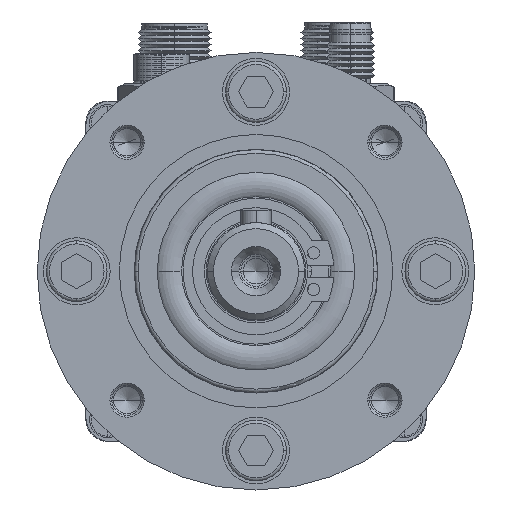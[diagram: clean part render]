
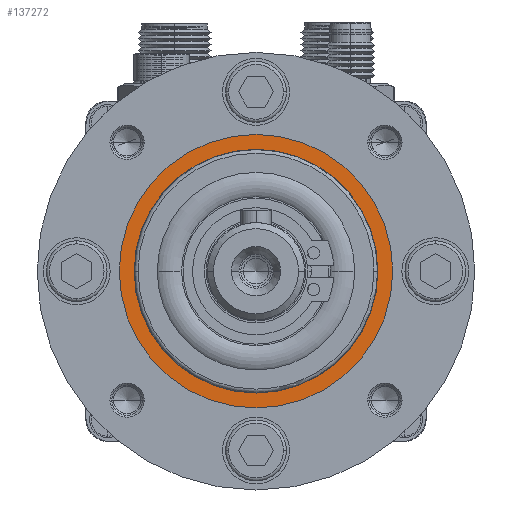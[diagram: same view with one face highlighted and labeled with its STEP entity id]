
A CAD part, left-side view. The second image highlights one B-rep face of the part: STEP entity #137272.
In plain terms, the highlighted planar face has unit normal (-1, 0, 0) as drawn and (1, 0, 0) by its records, which use the part's own axes.
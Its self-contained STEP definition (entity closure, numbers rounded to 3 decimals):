
#9642 = AXIS2_PLACEMENT_3D ( 'NONE', #59638, #80483, #103669 ) ;
#11394 = VERTEX_POINT ( 'NONE', #104766 ) ;
#12168 = CARTESIAN_POINT ( 'NONE',  ( 38.6, 0., 0. ) ) ;
#13734 = CARTESIAN_POINT ( 'NONE',  ( 38.6, 0., 0. ) ) ;
#18570 = DIRECTION ( 'NONE',  ( 0., 0., -1. ) ) ;
#19037 = DIRECTION ( 'NONE',  ( -1., 0., 0. ) ) ;
#24429 = DIRECTION ( 'NONE',  ( -1., 0., 0. ) ) ;
#36317 = VERTEX_POINT ( 'NONE', #94922 ) ;
#43731 = EDGE_CURVE ( 'NONE', #131314, #136624, #92022, .T. ) ;
#45557 = PLANE ( 'NONE',  #115530 ) ;
#48320 = DIRECTION ( 'NONE',  ( 1., 0., 0. ) ) ;
#57386 = DIRECTION ( 'NONE',  ( 0., 0., -1. ) ) ;
#59638 = CARTESIAN_POINT ( 'NONE',  ( 38.6, 0., 0. ) ) ;
#61723 = ORIENTED_EDGE ( 'NONE', *, *, #43731, .F. ) ;
#65879 = EDGE_LOOP ( 'NONE', ( #136371, #100129 ) ) ;
#68862 = EDGE_CURVE ( 'NONE', #11394, #36317, #128549, .T. ) ;
#69534 = EDGE_CURVE ( 'NONE', #36317, #11394, #120976, .T. ) ;
#80483 = DIRECTION ( 'NONE',  ( -1., 0., 0. ) ) ;
#82325 = EDGE_CURVE ( 'NONE', #136624, #131314, #114845, .T. ) ;
#86234 = FACE_OUTER_BOUND ( 'NONE', #126947, .T. ) ;
#88790 = AXIS2_PLACEMENT_3D ( 'NONE', #12168, #127338, #95781 ) ;
#89633 = FACE_BOUND ( 'NONE', #65879, .T. ) ;
#92022 = CIRCLE ( 'NONE', #109648, 22.5 ) ;
#92854 = CARTESIAN_POINT ( 'NONE',  ( 38.6, 0., 0. ) ) ;
#94922 = CARTESIAN_POINT ( 'NONE',  ( 38.6, 0., -20.05 ) ) ;
#95781 = DIRECTION ( 'NONE',  ( 0., 0., 1. ) ) ;
#100129 = ORIENTED_EDGE ( 'NONE', *, *, #69534, .T. ) ;
#100625 = ORIENTED_EDGE ( 'NONE', *, *, #82325, .F. ) ;
#101200 = CARTESIAN_POINT ( 'NONE',  ( 38.6, 0., 0. ) ) ;
#101699 = AXIS2_PLACEMENT_3D ( 'NONE', #92854, #19037, #18570 ) ;
#103669 = DIRECTION ( 'NONE',  ( 0., 0., 1. ) ) ;
#104766 = CARTESIAN_POINT ( 'NONE',  ( 38.6, 0., 20.05 ) ) ;
#109648 = AXIS2_PLACEMENT_3D ( 'NONE', #13734, #24429, #57386 ) ;
#114845 = CIRCLE ( 'NONE', #101699, 22.5 ) ;
#115530 = AXIS2_PLACEMENT_3D ( 'NONE', #101200, #48320, #133131 ) ;
#120976 = CIRCLE ( 'NONE', #9642, 20.05 ) ;
#126588 = CARTESIAN_POINT ( 'NONE',  ( 38.6, 0., 22.5 ) ) ;
#126947 = EDGE_LOOP ( 'NONE', ( #100625, #61723 ) ) ;
#127338 = DIRECTION ( 'NONE',  ( -1., 0., 0. ) ) ;
#128549 = CIRCLE ( 'NONE', #88790, 20.05 ) ;
#130139 = CARTESIAN_POINT ( 'NONE',  ( 38.6, 0., -22.5 ) ) ;
#131314 = VERTEX_POINT ( 'NONE', #126588 ) ;
#133131 = DIRECTION ( 'NONE',  ( 0., 0., -1. ) ) ;
#136371 = ORIENTED_EDGE ( 'NONE', *, *, #68862, .T. ) ;
#136624 = VERTEX_POINT ( 'NONE', #130139 ) ;
#137272 = ADVANCED_FACE ( 'NONE', ( #86234, #89633 ), #45557, .T. ) ;
